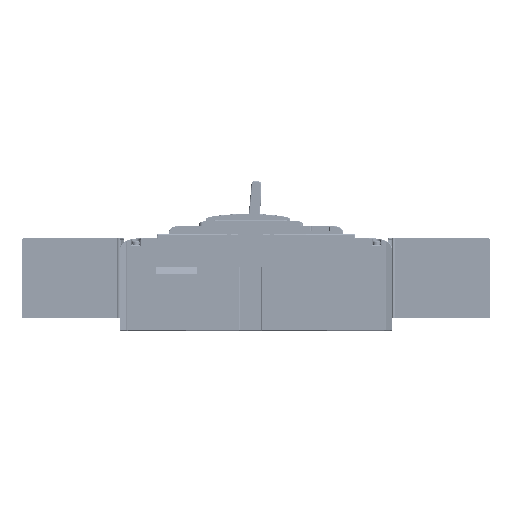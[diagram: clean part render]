
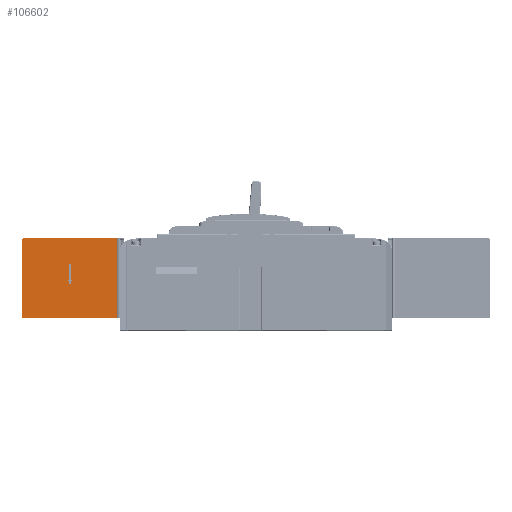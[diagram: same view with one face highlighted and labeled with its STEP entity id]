
A CAD part, left-side view. The second image highlights one B-rep face of the part: STEP entity #106602.
In plain terms, the highlighted planar face has unit normal (-1, 0, 0).
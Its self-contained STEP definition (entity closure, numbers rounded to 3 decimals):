
#937 = LINE ( 'NONE', #123263, #341070 ) ;
#11986 = CARTESIAN_POINT ( 'NONE',  ( 69.153, 29., -278.11 ) ) ;
#24789 = VECTOR ( 'NONE', #237612, 1000. ) ;
#29126 = VERTEX_POINT ( 'NONE', #255060 ) ;
#29715 = DIRECTION ( 'NONE',  ( 0., -1., 0. ) ) ;
#39691 = CARTESIAN_POINT ( 'NONE',  ( 69.153, -50.7, -374. ) ) ;
#41016 = ORIENTED_EDGE ( 'NONE', *, *, #224668, .F. ) ;
#43024 = FACE_BOUND ( 'NONE', #103688, .T. ) ;
#45958 = EDGE_CURVE ( 'NONE', #29126, #367138, #937, .T. ) ;
#48131 = CARTESIAN_POINT ( 'NONE',  ( 69.153, 29., -278.11 ) ) ;
#48685 = CARTESIAN_POINT ( 'NONE',  ( 69.153, -51.5, -373.2 ) ) ;
#54060 = VERTEX_POINT ( 'NONE', #92543 ) ;
#55950 = VERTEX_POINT ( 'NONE', #11986 ) ;
#60101 = EDGE_CURVE ( 'NONE', #379316, #177773, #340286, .T. ) ;
#62317 = VERTEX_POINT ( 'NONE', #178330 ) ;
#63071 = DIRECTION ( 'NONE',  ( 0., -0.949, 0.316 ) ) ;
#64792 = VECTOR ( 'NONE', #198084, 1000. ) ;
#66186 = EDGE_CURVE ( 'NONE', #367138, #214884, #75848, .T. ) ;
#73851 = EDGE_CURVE ( 'NONE', #307199, #347578, #152716, .T. ) ;
#74476 = ORIENTED_EDGE ( 'NONE', *, *, #273321, .T. ) ;
#75848 = LINE ( 'NONE', #196100, #395643 ) ;
#81241 = ORIENTED_EDGE ( 'NONE', *, *, #389164, .F. ) ;
#82244 = VECTOR ( 'NONE', #170412, 1000. ) ;
#83059 = EDGE_CURVE ( 'NONE', #347578, #379316, #380062, .T. ) ;
#88736 = VECTOR ( 'NONE', #100826, 1000. ) ;
#92543 = CARTESIAN_POINT ( 'NONE',  ( 69.153, -12.5, -327.5 ) ) ;
#97422 = CARTESIAN_POINT ( 'NONE',  ( 69.153, 29., -373.2 ) ) ;
#98363 = DIRECTION ( 'NONE',  ( 0., 0., -1. ) ) ;
#100826 = DIRECTION ( 'NONE',  ( 0., 1., 0. ) ) ;
#103688 = EDGE_LOOP ( 'NONE', ( #213761, #41016, #143820, #81241, #308446, #228379, #341306 ) ) ;
#103864 = AXIS2_PLACEMENT_3D ( 'NONE', #112211, #209920, #297697 ) ;
#106602 = ADVANCED_FACE ( 'NONE', ( #197877, #43024 ), #167331, .F. ) ;
#112211 = CARTESIAN_POINT ( 'NONE',  ( 69.153, 28., -274.3 ) ) ;
#113746 = AXIS2_PLACEMENT_3D ( 'NONE', #215188, #184598, #29715 ) ;
#115697 = EDGE_CURVE ( 'NONE', #62317, #54060, #231023, .T. ) ;
#123263 = CARTESIAN_POINT ( 'NONE',  ( 69.153, -18.5, -325.5 ) ) ;
#128584 = EDGE_CURVE ( 'NONE', #55950, #177773, #196943, .T. ) ;
#143820 = ORIENTED_EDGE ( 'NONE', *, *, #256472, .F. ) ;
#152716 = CIRCLE ( 'NONE', #113746, 0.8 ) ;
#167297 = VECTOR ( 'NONE', #63071, 1000. ) ;
#167331 = PLANE ( 'NONE',  #103864 ) ;
#170228 = ORIENTED_EDGE ( 'NONE', *, *, #329398, .T. ) ;
#170412 = DIRECTION ( 'NONE',  ( 0., 0., -1. ) ) ;
#171508 = VECTOR ( 'NONE', #217725, 1000. ) ;
#175889 = DIRECTION ( 'NONE',  ( 0., 0., -1. ) ) ;
#177773 = VERTEX_POINT ( 'NONE', #97422 ) ;
#178330 = CARTESIAN_POINT ( 'NONE',  ( 69.153, -12.5, -326.5 ) ) ;
#181165 = VECTOR ( 'NONE', #398971, 1000. ) ;
#184598 = DIRECTION ( 'NONE',  ( 1., 0., 0. ) ) ;
#184889 = LINE ( 'NONE', #242105, #181165 ) ;
#190635 = DIRECTION ( 'NONE',  ( 1., 0., 0. ) ) ;
#191610 = ORIENTED_EDGE ( 'NONE', *, *, #60101, .F. ) ;
#196100 = CARTESIAN_POINT ( 'NONE',  ( 69.153, -12.5, -323.5 ) ) ;
#196943 = LINE ( 'NONE', #48131, #82244 ) ;
#197877 = FACE_OUTER_BOUND ( 'NONE', #384281, .T. ) ;
#198084 = DIRECTION ( 'NONE',  ( 0., -1., 0. ) ) ;
#200398 = EDGE_CURVE ( 'NONE', #54060, #29126, #219963, .T. ) ;
#200972 = CARTESIAN_POINT ( 'NONE',  ( 69.153, -51.5, -373.2 ) ) ;
#204665 = VECTOR ( 'NONE', #175889, 1000. ) ;
#209920 = DIRECTION ( 'NONE',  ( 1., 0., 0. ) ) ;
#213761 = ORIENTED_EDGE ( 'NONE', *, *, #115697, .F. ) ;
#214884 = VERTEX_POINT ( 'NONE', #226785 ) ;
#215188 = CARTESIAN_POINT ( 'NONE',  ( 69.153, -50.7, -373.2 ) ) ;
#215954 = ORIENTED_EDGE ( 'NONE', *, *, #73851, .F. ) ;
#217725 = DIRECTION ( 'NONE',  ( 0., 0., -1. ) ) ;
#219963 = LINE ( 'NONE', #283137, #167297 ) ;
#221209 = DIRECTION ( 'NONE',  ( 0., 0., -1. ) ) ;
#224668 = EDGE_CURVE ( 'NONE', #383210, #62317, #379563, .T. ) ;
#224978 = DIRECTION ( 'NONE',  ( 0., 0.949, 0.316 ) ) ;
#226785 = CARTESIAN_POINT ( 'NONE',  ( 69.153, -12.5, -324.5 ) ) ;
#228379 = ORIENTED_EDGE ( 'NONE', *, *, #45958, .F. ) ;
#230863 = VECTOR ( 'NONE', #323855, 1000. ) ;
#231023 = LINE ( 'NONE', #334808, #204665 ) ;
#237612 = DIRECTION ( 'NONE',  ( 0., 1., 0. ) ) ;
#237976 = VERTEX_POINT ( 'NONE', #391466 ) ;
#242105 = CARTESIAN_POINT ( 'NONE',  ( 69.153, -51.5, -278.11 ) ) ;
#249817 = CARTESIAN_POINT ( 'NONE',  ( 69.153, 28.2, -373.2 ) ) ;
#254398 = LINE ( 'NONE', #284953, #171508 ) ;
#255060 = CARTESIAN_POINT ( 'NONE',  ( 69.153, -18.5, -325.5 ) ) ;
#256472 = EDGE_CURVE ( 'NONE', #237976, #383210, #254398, .T. ) ;
#256985 = ORIENTED_EDGE ( 'NONE', *, *, #83059, .F. ) ;
#269480 = CARTESIAN_POINT ( 'NONE',  ( 69.153, -12.5, -323.5 ) ) ;
#273321 = EDGE_CURVE ( 'NONE', #307199, #395164, #299309, .T. ) ;
#283137 = CARTESIAN_POINT ( 'NONE',  ( 69.153, -12.5, -327.5 ) ) ;
#284953 = CARTESIAN_POINT ( 'NONE',  ( 69.153, 3.5, -324.5 ) ) ;
#286317 = CARTESIAN_POINT ( 'NONE',  ( 69.153, 3.5, -326.5 ) ) ;
#297697 = DIRECTION ( 'NONE',  ( 0., 1., 0. ) ) ;
#299309 = LINE ( 'NONE', #48685, #230863 ) ;
#307199 = VERTEX_POINT ( 'NONE', #200972 ) ;
#308446 = ORIENTED_EDGE ( 'NONE', *, *, #66186, .F. ) ;
#320382 = CARTESIAN_POINT ( 'NONE',  ( 69.153, 3.5, -326.5 ) ) ;
#320733 = AXIS2_PLACEMENT_3D ( 'NONE', #249817, #190635, #221209 ) ;
#323855 = DIRECTION ( 'NONE',  ( 0., 0., 1. ) ) ;
#329398 = EDGE_CURVE ( 'NONE', #395164, #55950, #184889, .T. ) ;
#332536 = ORIENTED_EDGE ( 'NONE', *, *, #128584, .T. ) ;
#334808 = CARTESIAN_POINT ( 'NONE',  ( 69.153, -12.5, -326.5 ) ) ;
#335349 = LINE ( 'NONE', #394523, #24789 ) ;
#340286 = CIRCLE ( 'NONE', #320733, 0.8 ) ;
#341070 = VECTOR ( 'NONE', #224978, 1000. ) ;
#341306 = ORIENTED_EDGE ( 'NONE', *, *, #200398, .F. ) ;
#343335 = CARTESIAN_POINT ( 'NONE',  ( 69.153, -50.7, -374. ) ) ;
#345871 = CARTESIAN_POINT ( 'NONE',  ( 69.153, -51.5, -278.11 ) ) ;
#347578 = VERTEX_POINT ( 'NONE', #343335 ) ;
#366877 = CARTESIAN_POINT ( 'NONE',  ( 69.153, 28.2, -374. ) ) ;
#367138 = VERTEX_POINT ( 'NONE', #269480 ) ;
#379316 = VERTEX_POINT ( 'NONE', #366877 ) ;
#379563 = LINE ( 'NONE', #320382, #64792 ) ;
#380062 = LINE ( 'NONE', #39691, #88736 ) ;
#383210 = VERTEX_POINT ( 'NONE', #286317 ) ;
#384281 = EDGE_LOOP ( 'NONE', ( #191610, #256985, #215954, #74476, #170228, #332536 ) ) ;
#389164 = EDGE_CURVE ( 'NONE', #214884, #237976, #335349, .T. ) ;
#391466 = CARTESIAN_POINT ( 'NONE',  ( 69.153, 3.5, -324.5 ) ) ;
#394523 = CARTESIAN_POINT ( 'NONE',  ( 69.153, -12.5, -324.5 ) ) ;
#395164 = VERTEX_POINT ( 'NONE', #345871 ) ;
#395643 = VECTOR ( 'NONE', #98363, 1000. ) ;
#398971 = DIRECTION ( 'NONE',  ( 0., 1., 0. ) ) ;
